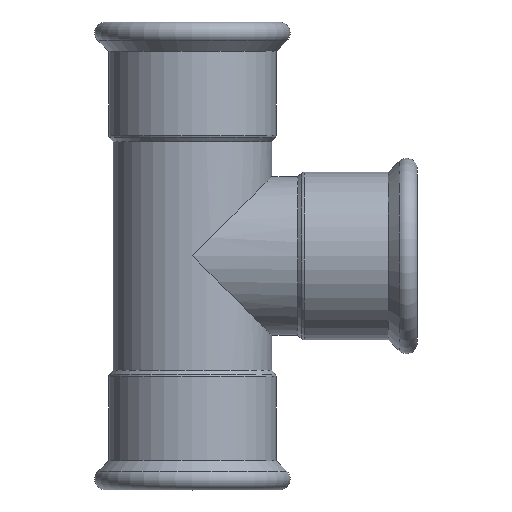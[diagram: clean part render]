
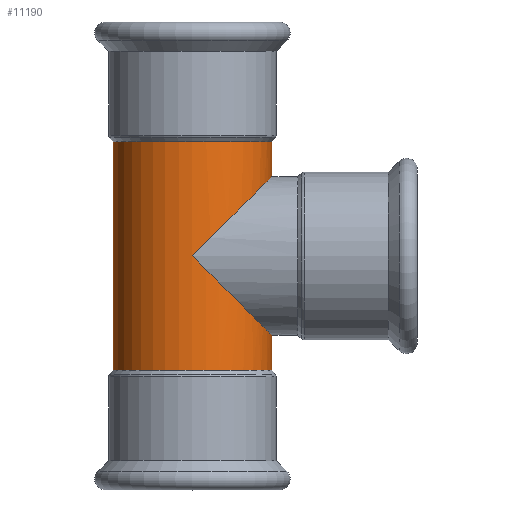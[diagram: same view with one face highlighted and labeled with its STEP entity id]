
A CAD part, top view. The second image highlights one B-rep face of the part: STEP entity #11190.
In plain terms, the highlighted cylindrical face has radius 44.45 mm (diameter 88.9 mm), a partial arc.
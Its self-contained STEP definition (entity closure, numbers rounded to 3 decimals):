
#5440=CARTESIAN_POINT('',(-55.,64.,0.));
#5450=DIRECTION('',(0.,-1.,0.));
#5460=DIRECTION('',(1.,0.,0.));
#5470=AXIS2_PLACEMENT_3D('',#5440,#5450,#5460);
#5480=CYLINDRICAL_SURFACE('',#5470,44.45);
#5490=CARTESIAN_POINT('',(-10.55,64.,0.));
#5500=DIRECTION('',(0.,-1.,0.));
#5510=VECTOR('',#5500,1.);
#5520=LINE('',#5490,#5510);
#5530=CARTESIAN_POINT('',(-10.55,-44.45,0.));
#5540=VERTEX_POINT('',#5530);
#5550=CARTESIAN_POINT('',(-10.55,-64.,0.));
#5560=VERTEX_POINT('',#5550);
#5570=EDGE_CURVE('',#5540,#5560,#5520,.T.);
#5590=CARTESIAN_POINT('',(-55.,0.,0.));
#5600=DIRECTION('',(-0.707,-0.707,0.));
#5610=DIRECTION('',(-0.707,0.707,0.));
#5620=AXIS2_PLACEMENT_3D('',#5590,#5600,#5610);
#5630=ELLIPSE('',#5620,62.862,44.45);
#5680=CARTESIAN_POINT('',(-55.,0.,0.));
#5690=DIRECTION('',(-0.707,0.707,0.));
#5700=DIRECTION('',(-0.707,-0.707,0.));
#5710=AXIS2_PLACEMENT_3D('',#5680,#5690,#5700);
#5720=ELLIPSE('',#5710,62.862,44.45);
#5730=CARTESIAN_POINT('',(-10.55,44.45,0.));
#5740=VERTEX_POINT('',#5730);
#5770=CARTESIAN_POINT('',(-10.55,64.,0.));
#5780=VERTEX_POINT('',#5770);
#5790=EDGE_CURVE('',#5780,#5740,#5520,.T.);
#5810=CARTESIAN_POINT('',(-55.,64.,0.));
#5820=DIRECTION('',(0.,1.,0.));
#5830=DIRECTION('',(-1.,0.,0.));
#5840=AXIS2_PLACEMENT_3D('',#5810,#5820,#5830);
#5850=CIRCLE('',#5840,44.45);
#5860=CARTESIAN_POINT('',(-99.45,64.,0.));
#5870=VERTEX_POINT('',#5860);
#5900=CARTESIAN_POINT('',(-99.45,64.,0.))
;
#5910=DIRECTION('',(0.,-1.,0.));
#5920=VECTOR('',#5910,1.);
#5930=LINE('',#5900,#5920);
#5940=CARTESIAN_POINT('',(-99.45,-64.,0.));
#5950=VERTEX_POINT('',#5940);
#5960=EDGE_CURVE('',#5870,#5950,#5930,.T.);
#5980=CARTESIAN_POINT('',(-55.,-64.,0.));
#5990=DIRECTION('',(0.,-1.,0.));
#6000=DIRECTION('',(1.,0.,0.));
#6010=AXIS2_PLACEMENT_3D('',#5980,#5990,#6000);
#6020=CIRCLE('',#6010,44.45);
#10150=EDGE_CURVE('',#5870,#5780,#5850,.T.);
#11050=ORIENTED_EDGE('',*,*,#5790,.F.);
#11060=CARTESIAN_POINT('',(-55.,0.,44.45));
#11070=VERTEX_POINT('',#11060);
#11080=EDGE_CURVE('',#11070,#5740,#5720,.T.);
#11090=ORIENTED_EDGE('',*,*,#11080,.T.);
#11100=EDGE_CURVE('',#5540,#11070,#5630,.T.);
#11110=ORIENTED_EDGE('',*,*,#11100,.T.);
#11120=ORIENTED_EDGE('',*,*,#5570,.F.);
#11130=EDGE_CURVE('',#5560,#5950,#6020,.T.);
#11140=ORIENTED_EDGE('',*,*,#11130,.F.);
#11150=ORIENTED_EDGE('',*,*,#5960,.T.);
#11160=ORIENTED_EDGE('',*,*,#10150,.F.);
#11170=EDGE_LOOP('',(#11160,#11150,#11140,#11120,#11110,#11090,#11050));
#11180=FACE_OUTER_BOUND('',#11170,.T.);
#11190=ADVANCED_FACE('',(#11180),#5480,.T.);
